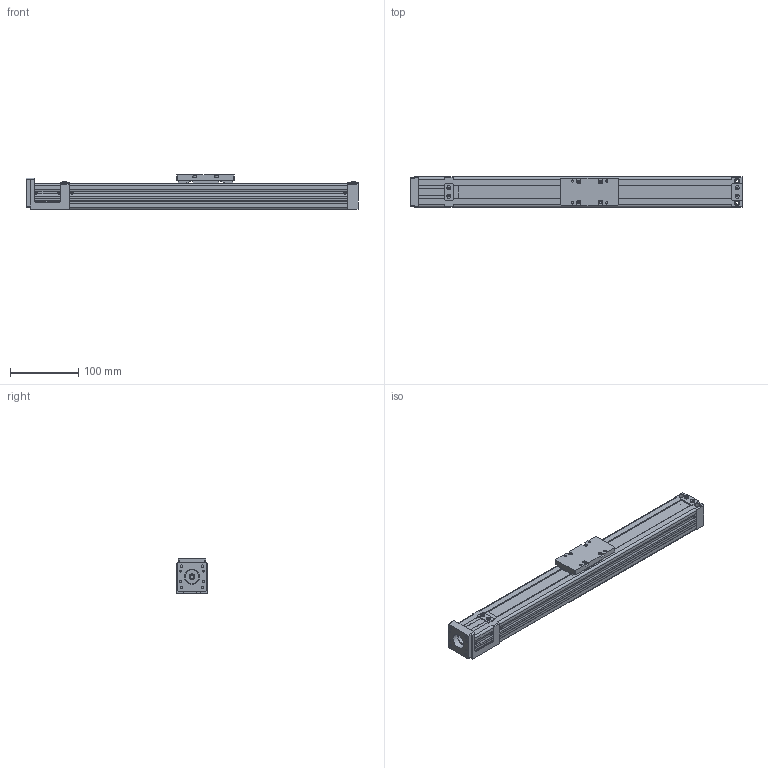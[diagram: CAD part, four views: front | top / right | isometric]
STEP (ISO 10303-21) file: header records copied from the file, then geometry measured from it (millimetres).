
FILE_DESCRIPTION((''),'2;1');
FILE_NAME('D:\製品 (図面)\カタログ用3D\SU部品\SU45×50\ダウンロード用\SU45×50-MB42\SU45×50-300-MB42.stp','2011-06-17T14:48:29',('Tsuchiya'),(''),'Autodesk Inventor 10','Autodesk Inventor 10','');
FILE_SCHEMA(('AUTOMOTIVE_DESIGN { 1 0 10303 214 1 1 1 1 }'));
Length unit declared in the file: millimetre
Products named in the file (3): SU45×50-300-MB42; SB45×50-300-MB42-1(1); SU45×50-T(1)
Assembly tree (2 placements, depth 2):
  SU45×50-300-MB42
    SB45×50-300-MB42-1(1)
    SU45×50-T(1)
Bounding box: 486 x 45 x 50 mm (x, y, z)
Volume: 308976.4 mm3; surface area: 195707 mm2
Topology: 2 solids, 2 shells, 684 faces, 1826 edges, 1203 vertices
Faces by surface type: plane 515, cylinder 79, bspline 59, torus 18, cone 13
Full cylindrical faces by diameter (mm): 2.459 x4, 3.242 x4, 3.4 x4, 4.5 x4, 5 x4, 6 x5, 7 x6, 8 x7, 10 x1, 20 x1, 22 x1, 30 x1
Entity records: 21097 total; most frequent: CARTESIAN_POINT 4690, ORIENTED_EDGE 3358, DIRECTION 3136, EDGE_CURVE 1679, VECTOR 1318, LINE 1318, VERTEX_POINT 1165, EDGE_LOOP 912
